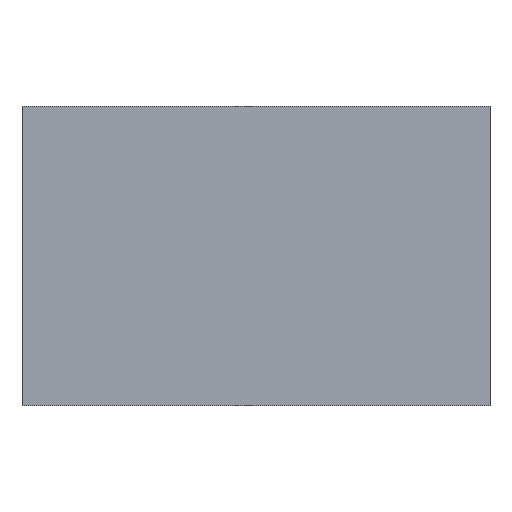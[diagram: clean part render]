
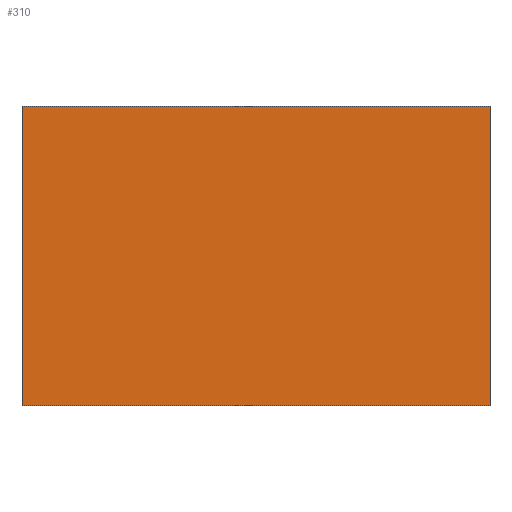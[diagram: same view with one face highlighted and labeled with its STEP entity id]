
A CAD part, front view. The second image highlights one B-rep face of the part: STEP entity #310.
In plain terms, the highlighted planar face has unit normal (0, -1, 0).
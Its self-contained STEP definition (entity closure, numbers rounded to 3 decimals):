
#66=ORIENTED_EDGE('',*,*,#123,.F.);
#67=ORIENTED_EDGE('',*,*,#121,.F.);
#68=ORIENTED_EDGE('',*,*,#125,.F.);
#69=ORIENTED_EDGE('',*,*,#116,.F.);
#116=EDGE_CURVE('',#148,#149,#176,.T.);
#121=EDGE_CURVE('',#153,#151,#181,.T.);
#123=EDGE_CURVE('',#151,#148,#183,.T.);
#125=EDGE_CURVE('',#149,#153,#185,.T.);
#148=VERTEX_POINT('',#503);
#149=VERTEX_POINT('',#505);
#151=VERTEX_POINT('',#510);
#153=VERTEX_POINT('',#514);
#176=LINE('',#504,#188);
#181=LINE('',#515,#193);
#183=LINE('',#518,#195);
#185=LINE('',#521,#197);
#188=VECTOR('',#397,1000.);
#193=VECTOR('',#404,1000.);
#195=VECTOR('',#408,1000.);
#197=VECTOR('',#412,1000.);
#202=EDGE_LOOP('',(#66,#67,#68,#69));
#248=FACE_BOUND('',#202,.T.);
#294=PLANE('',#349);
#310=ADVANCED_FACE('',(#248),#294,.F.);
#349=AXIS2_PLACEMENT_3D('',#522,#413,#414);
#397=DIRECTION('',(1.,0.,0.));
#404=DIRECTION('',(-1.,0.,0.));
#408=DIRECTION('',(0.,0.,1.));
#412=DIRECTION('',(0.,0.,-1.));
#413=DIRECTION('',(0.,1.,0.));
#414=DIRECTION('',(0.,0.,1.));
#503=CARTESIAN_POINT('',(-15.875,0.,9.929));
#504=CARTESIAN_POINT('',(-15.875,0.,9.929));
#505=CARTESIAN_POINT('',(15.875,0.,9.929));
#510=CARTESIAN_POINT('',(-15.875,0.,-10.391));
#514=CARTESIAN_POINT('',(15.875,0.,-10.391));
#515=CARTESIAN_POINT('',(-15.875,0.,-10.391));
#518=CARTESIAN_POINT('',(-15.875,0.,-10.391));
#521=CARTESIAN_POINT('',(15.875,0.,-10.391));
#522=CARTESIAN_POINT('',(-15.875,0.,9.929));
